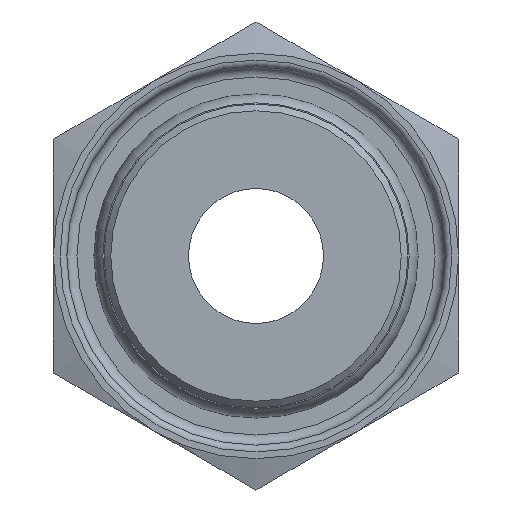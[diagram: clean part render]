
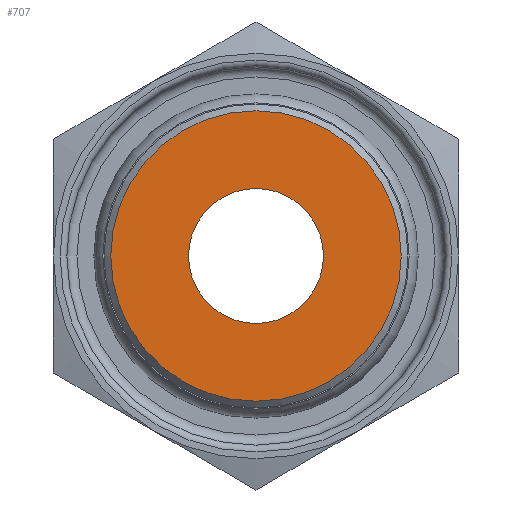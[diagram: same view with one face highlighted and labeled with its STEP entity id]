
A CAD part, front view. The second image highlights one B-rep face of the part: STEP entity #707.
In plain terms, the highlighted planar face has unit normal (0, -1, 0).
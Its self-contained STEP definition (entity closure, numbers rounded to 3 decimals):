
#73=FACE_BOUND('',#177,.T.);
#85=PLANE('',#863);
#122=FACE_OUTER_BOUND('',#176,.T.);
#176=EDGE_LOOP('',(#548));
#177=EDGE_LOOP('',(#549));
#274=CIRCLE('',#841,2.);
#289=CIRCLE('',#862,4.3);
#328=VERTEX_POINT('',#1221);
#342=VERTEX_POINT('',#1260);
#397=EDGE_CURVE('',#328,#328,#274,.T.);
#417=EDGE_CURVE('',#342,#342,#289,.T.);
#548=ORIENTED_EDGE('',*,*,#417,.F.);
#549=ORIENTED_EDGE('',*,*,#397,.T.);
#707=ADVANCED_FACE('',(#122,#73),#85,.T.);
#841=AXIS2_PLACEMENT_3D('',#1222,#988,#989);
#862=AXIS2_PLACEMENT_3D('',#1262,#1035,#1036);
#863=AXIS2_PLACEMENT_3D('',#1263,#1037,#1038);
#988=DIRECTION('center_axis',(0.,1.,0.));
#989=DIRECTION('ref_axis',(1.,0.,0.));
#1035=DIRECTION('center_axis',(0.,1.,0.));
#1036=DIRECTION('ref_axis',(1.,0.,0.));
#1037=DIRECTION('center_axis',(0.,-1.,0.));
#1038=DIRECTION('ref_axis',(0.,0.,-1.));
#1221=CARTESIAN_POINT('',(-2.,-6.5,0.));
#1222=CARTESIAN_POINT('Origin',(0.,-6.5,0.));
#1260=CARTESIAN_POINT('',(-4.3,-6.5,0.));
#1262=CARTESIAN_POINT('Origin',(0.,-6.5,0.));
#1263=CARTESIAN_POINT('Origin',(-4.5,-6.5,0.));
